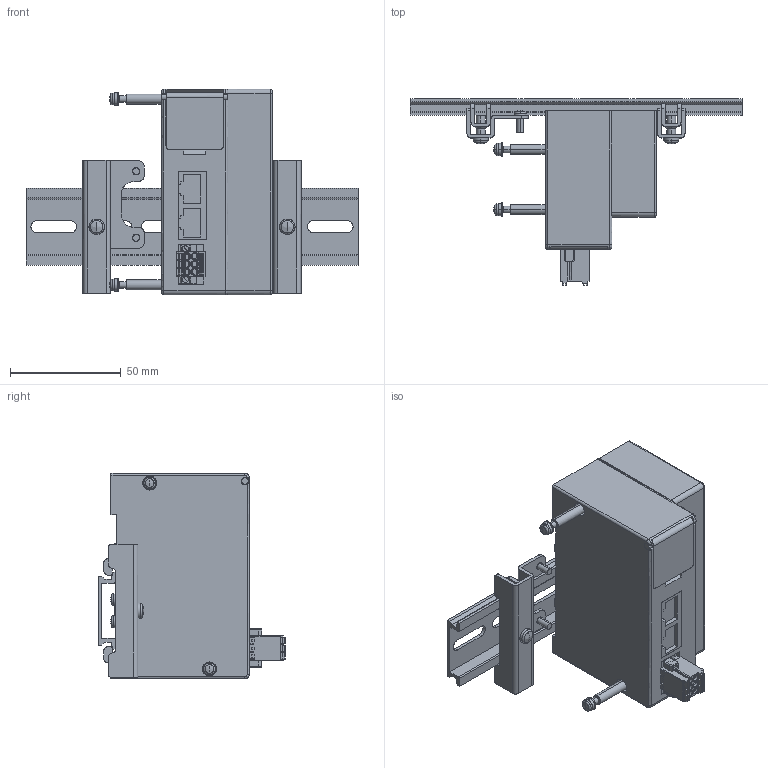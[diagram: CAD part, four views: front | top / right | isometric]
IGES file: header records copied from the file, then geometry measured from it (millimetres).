
Start section: ------------------------------------------------------------------------
Bounding box: 150 x 84.4 x 93 mm (x, y, z)
Volume: 275034.4 mm3; surface area: 59937.5 mm2
Topology: 4 solids, 4 shells, 1015 faces, 2667 edges, 1713 vertices
Faces by surface type: bspline 1015
